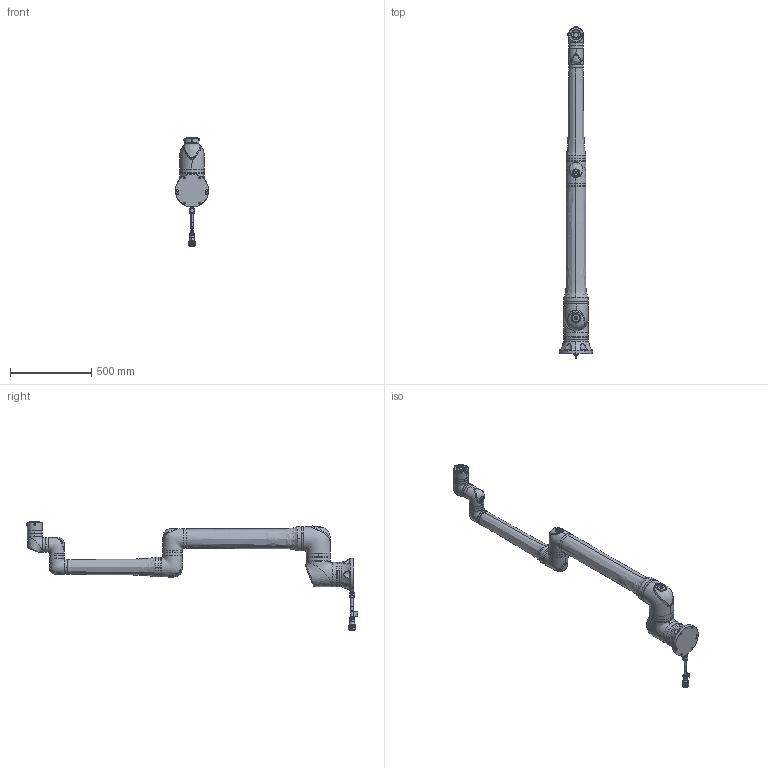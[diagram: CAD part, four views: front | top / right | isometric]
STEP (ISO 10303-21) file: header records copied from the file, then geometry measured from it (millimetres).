
FILE_DESCRIPTION (( 'STEP AP214' ), '1' );
FILE_NAME ('774-485-01_Filled.STEP', '2026-06-24T07:24:08', ( '' ), ( '' ), 'SwSTEP 2.0', 'SolidWorks 2025', '' );
FILE_SCHEMA (( 'AUTOMOTIVE_DESIGN' ));
Length unit declared in the file: millimetre
Products named in the file (8): C-2011356; C-2011361; C-2011355; C-2011357; 774-485-01_Filled; C-2011362; C-2011359; C-2011358
Assembly tree (7 placements, depth 2):
  774-485-01_Filled
    C-2011355
    C-2011356
    C-2011357
    C-2011358
    C-2011359
    C-2011361
    C-2011362
Bounding box: 203.82 x 2048 x 670.69 mm (x, y, z)
Volume: 29463954.3 mm3; surface area: 1187145 mm2
Topology: 7 solids, 7 shells, 2138 faces, 5430 edges, 3361 vertices
Faces by surface type: bspline 1007, cylinder 484, plane 374, cone 146, torus 113, sphere 14
Entity records: 123751 total; most frequent: CARTESIAN_POINT 80114, ORIENTED_EDGE 10788, DIRECTION 6524, EDGE_CURVE 5394, VERTEX_POINT 3361, AXIS2_PLACEMENT_3D 2575, B_SPLINE_CURVE_WITH_KNOTS 2364, EDGE_LOOP 2263
